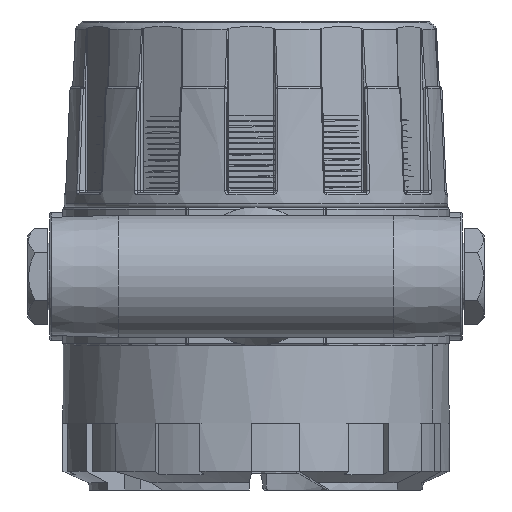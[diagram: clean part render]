
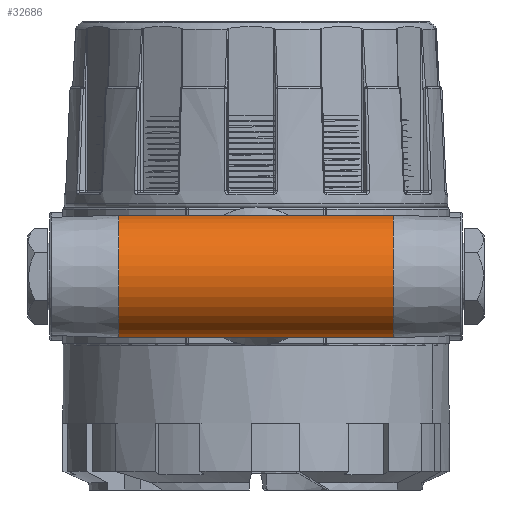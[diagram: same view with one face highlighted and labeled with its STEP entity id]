
A CAD part, front view. The second image highlights one B-rep face of the part: STEP entity #32686.
In plain terms, the highlighted cylindrical face has radius 16.5 mm (diameter 33 mm), a partial arc.
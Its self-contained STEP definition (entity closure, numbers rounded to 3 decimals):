
#403 = ORIENTED_EDGE ( 'NONE', *, *, #12643, .F. ) ;
#1681 = VECTOR ( 'NONE', #42013, 1000. ) ;
#4048 = FACE_OUTER_BOUND ( 'NONE', #41256, .T. ) ;
#5870 = DIRECTION ( 'NONE',  ( 1., 0., 0. ) ) ;
#6631 = VERTEX_POINT ( 'NONE', #14604 ) ;
#6992 = DIRECTION ( 'NONE',  ( 0., 0., -1. ) ) ;
#7137 = VECTOR ( 'NONE', #17816, 1000. ) ;
#7908 = CARTESIAN_POINT ( 'NONE',  ( 0., 0., 0. ) ) ;
#8102 = VERTEX_POINT ( 'NONE', #21416 ) ;
#8627 = CIRCLE ( 'NONE', #14081, 16.5 ) ;
#9207 = LINE ( 'NONE', #38638, #1681 ) ;
#11583 = CARTESIAN_POINT ( 'NONE',  ( 37., 0., 0. ) ) ;
#12643 = EDGE_CURVE ( 'NONE', #8102, #47466, #8627, .T. ) ;
#14081 = AXIS2_PLACEMENT_3D ( 'NONE', #11583, #33039, #6992 ) ;
#14086 = CARTESIAN_POINT ( 'NONE',  ( 37., 0., -16.5 ) ) ;
#14260 = EDGE_CURVE ( 'NONE', #39356, #47466, #9207, .T. ) ;
#14604 = CARTESIAN_POINT ( 'NONE',  ( -37., 0., 16.5 ) ) ;
#14789 = CIRCLE ( 'NONE', #26299, 16.5 ) ;
#14898 = CARTESIAN_POINT ( 'NONE',  ( 0., 0., 16.5 ) ) ;
#15172 = DIRECTION ( 'NONE',  ( 1., 0., 0. ) ) ;
#17222 = CARTESIAN_POINT ( 'NONE',  ( -37., 0., 0. ) ) ;
#17287 = ORIENTED_EDGE ( 'NONE', *, *, #27508, .F. ) ;
#17816 = DIRECTION ( 'NONE',  ( 1., 0., 0. ) ) ;
#21416 = CARTESIAN_POINT ( 'NONE',  ( 37., 0., 16.5 ) ) ;
#23712 = DIRECTION ( 'NONE',  ( 0., 0., -1. ) ) ;
#24174 = ORIENTED_EDGE ( 'NONE', *, *, #14260, .T. ) ;
#26299 = AXIS2_PLACEMENT_3D ( 'NONE', #17222, #5870, #23712 ) ;
#26507 = ORIENTED_EDGE ( 'NONE', *, *, #43647, .T. ) ;
#27508 = EDGE_CURVE ( 'NONE', #6631, #8102, #32749, .T. ) ;
#32526 = CARTESIAN_POINT ( 'NONE',  ( -37., 0., -16.5 ) ) ;
#32686 = ADVANCED_FACE ( 'NONE', ( #4048 ), #33486, .T. ) ;
#32749 = LINE ( 'NONE', #14898, #7137 ) ;
#33039 = DIRECTION ( 'NONE',  ( 1., 0., 0. ) ) ;
#33486 = CYLINDRICAL_SURFACE ( 'NONE', #43710, 16.5 ) ;
#37097 = DIRECTION ( 'NONE',  ( 0., 0., -1. ) ) ;
#38638 = CARTESIAN_POINT ( 'NONE',  ( 0., 0., -16.5 ) ) ;
#39356 = VERTEX_POINT ( 'NONE', #32526 ) ;
#41256 = EDGE_LOOP ( 'NONE', ( #17287, #26507, #24174, #403 ) ) ;
#42013 = DIRECTION ( 'NONE',  ( 1., 0., 0. ) ) ;
#43647 = EDGE_CURVE ( 'NONE', #6631, #39356, #14789, .T. ) ;
#43710 = AXIS2_PLACEMENT_3D ( 'NONE', #7908, #15172, #37097 ) ;
#47466 = VERTEX_POINT ( 'NONE', #14086 ) ;
